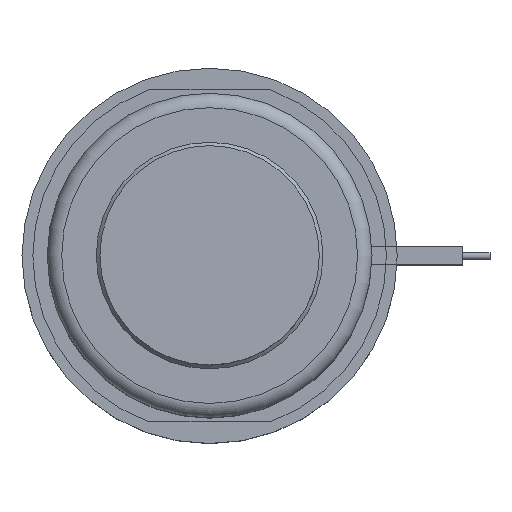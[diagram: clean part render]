
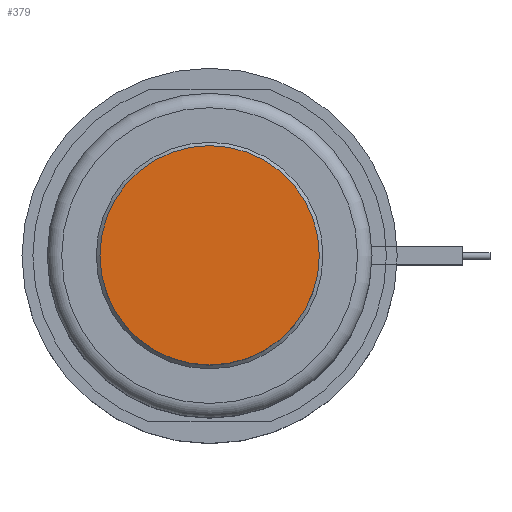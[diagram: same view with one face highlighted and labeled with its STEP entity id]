
A CAD part, top view. The second image highlights one B-rep face of the part: STEP entity #379.
In plain terms, the highlighted planar face has unit normal (0, 0, 1).
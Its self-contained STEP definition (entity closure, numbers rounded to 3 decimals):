
#241=PLANE('',#1394);
#289=FACE_OUTER_BOUND('',#615,.T.);
#379=ADVANCED_FACE('',(#289),#241,.F.);
#615=EDGE_LOOP('',(#771));
#771=ORIENTED_EDGE('',*,*,#1149,.F.);
#1035=VERTEX_POINT('',#2031);
#1149=EDGE_CURVE('',#1035,#1035,#1290,.T.);
#1290=CIRCLE('',#1393,15.2);
#1393=AXIS2_PLACEMENT_3D('',#2030,#1616,#1617);
#1394=AXIS2_PLACEMENT_3D('',#2032,#1618,#1619);
#1616=DIRECTION('',(0.,0.,-1.));
#1617=DIRECTION('',(-1.,0.,0.));
#1618=DIRECTION('',(0.,0.,-1.));
#1619=DIRECTION('',(-1.,0.,0.));
#2030=CARTESIAN_POINT('',(0.,0.,18.));
#2031=CARTESIAN_POINT('',(-15.2,0.,18.));
#2032=CARTESIAN_POINT('',(0.,0.,18.));
